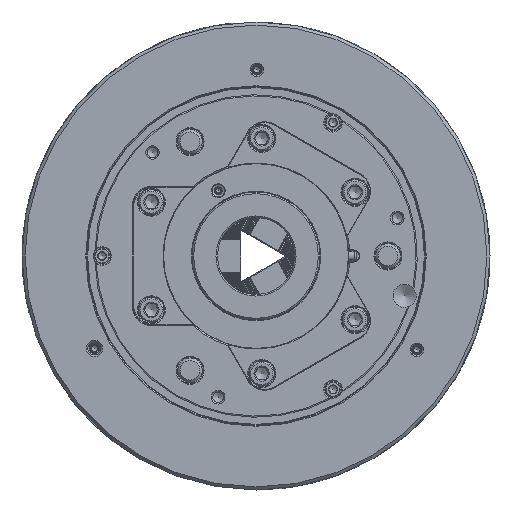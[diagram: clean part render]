
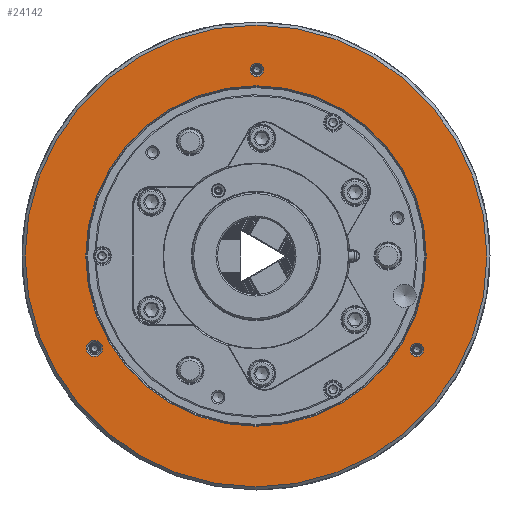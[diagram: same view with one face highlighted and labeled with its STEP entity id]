
A CAD part, left-side view. The second image highlights one B-rep face of the part: STEP entity #24142.
In plain terms, the highlighted planar face has unit normal (-1, 0, 0).
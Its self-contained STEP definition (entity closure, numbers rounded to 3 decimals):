
#500 = DIRECTION ( 'NONE',  ( 1., 0., 0. ) ) ;
#8141 = EDGE_LOOP ( 'NONE', ( #21947 ) ) ;
#9472 = VERTEX_POINT ( 'NONE', #22091 ) ;
#10728 = EDGE_LOOP ( 'NONE', ( #10780 ) ) ;
#10780 = ORIENTED_EDGE ( 'NONE', *, *, #44669, .F. ) ;
#10956 = AXIS2_PLACEMENT_3D ( 'NONE', #47900, #17606, #77194 ) ;
#11803 = FACE_BOUND ( 'NONE', #73478, .T. ) ;
#13430 = AXIS2_PLACEMENT_3D ( 'NONE', #48141, #56084, #95352 ) ;
#14765 = CARTESIAN_POINT ( 'NONE',  ( -138., -0.538, 120.933 ) ) ;
#15233 = DIRECTION ( 'NONE',  ( -1., 0., 0. ) ) ;
#17606 = DIRECTION ( 'NONE',  ( -1., 0., 0. ) ) ;
#18250 = FACE_BOUND ( 'NONE', #8141, .T. ) ;
#18339 = EDGE_CURVE ( 'NONE', #22206, #22206, #57001, .T. ) ;
#21447 = EDGE_CURVE ( 'NONE', #25108, #25108, #87266, .T. ) ;
#21947 = ORIENTED_EDGE ( 'NONE', *, *, #71454, .F. ) ;
#22091 = CARTESIAN_POINT ( 'NONE',  ( -138., 0., -150. ) ) ;
#22206 = VERTEX_POINT ( 'NONE', #52518 ) ;
#24142 = ADVANCED_FACE ( 'NONE', ( #18250, #78843, #11803, #65908, #27209 ), #96238, .F. ) ;
#25108 = VERTEX_POINT ( 'NONE', #48950 ) ;
#27158 = AXIS2_PLACEMENT_3D ( 'NONE', #43083, #58449, #28662 ) ;
#27209 = FACE_BOUND ( 'NONE', #93152, .T. ) ;
#28662 = DIRECTION ( 'NONE',  ( 0., 0., -1. ) ) ;
#29263 = CARTESIAN_POINT ( 'NONE',  ( -138., -0.538, 125.233 ) ) ;
#30688 = VERTEX_POINT ( 'NONE', #29263 ) ;
#30710 = ORIENTED_EDGE ( 'NONE', *, *, #18339, .F. ) ;
#38247 = CARTESIAN_POINT ( 'NONE',  ( -138., 0., 0. ) ) ;
#38720 = DIRECTION ( 'NONE',  ( 0., 0., -1. ) ) ;
#43083 = CARTESIAN_POINT ( 'NONE',  ( -138., -150., 0. ) ) ;
#44669 = EDGE_CURVE ( 'NONE', #9472, #9472, #51450, .T. ) ;
#47900 = CARTESIAN_POINT ( 'NONE',  ( -138., -104.462, -60.933 ) ) ;
#48141 = CARTESIAN_POINT ( 'NONE',  ( -138., 0., 0. ) ) ;
#48873 = AXIS2_PLACEMENT_3D ( 'NONE', #14765, #15233, #67389 ) ;
#48950 = CARTESIAN_POINT ( 'NONE',  ( -138., 0., -110.6 ) ) ;
#51450 = CIRCLE ( 'NONE', #13430, 150. ) ;
#52518 = CARTESIAN_POINT ( 'NONE',  ( -138., -104.462, -56.633 ) ) ;
#53064 = CARTESIAN_POINT ( 'NONE',  ( -138., 105., -65.3 ) ) ;
#55136 = ORIENTED_EDGE ( 'NONE', *, *, #70740, .T. ) ;
#56084 = DIRECTION ( 'NONE',  ( 1., 0., 0. ) ) ;
#56798 = CARTESIAN_POINT ( 'NONE',  ( -138., 105., -60. ) ) ;
#57001 = CIRCLE ( 'NONE', #10956, 4.3 ) ;
#57697 = ORIENTED_EDGE ( 'NONE', *, *, #21447, .T. ) ;
#58379 = CIRCLE ( 'NONE', #48873, 4.3 ) ;
#58449 = DIRECTION ( 'NONE',  ( 1., 0., 0. ) ) ;
#65908 = FACE_OUTER_BOUND ( 'NONE', #10728, .T. ) ;
#67389 = DIRECTION ( 'NONE',  ( 0., 0., 1. ) ) ;
#68438 = VERTEX_POINT ( 'NONE', #53064 ) ;
#70740 = EDGE_CURVE ( 'NONE', #68438, #68438, #97947, .T. ) ;
#71454 = EDGE_CURVE ( 'NONE', #30688, #30688, #58379, .T. ) ;
#73478 = EDGE_LOOP ( 'NONE', ( #55136 ) ) ;
#74803 = EDGE_LOOP ( 'NONE', ( #30710 ) ) ;
#77194 = DIRECTION ( 'NONE',  ( 0., 0., 1. ) ) ;
#78843 = FACE_BOUND ( 'NONE', #74803, .T. ) ;
#79689 = DIRECTION ( 'NONE',  ( 0., 0., -1. ) ) ;
#80955 = AXIS2_PLACEMENT_3D ( 'NONE', #38247, #500, #38720 ) ;
#87137 = DIRECTION ( 'NONE',  ( 1., 0., 0. ) ) ;
#87266 = CIRCLE ( 'NONE', #80955, 110.6 ) ;
#90040 = AXIS2_PLACEMENT_3D ( 'NONE', #56798, #87137, #79689 ) ;
#93152 = EDGE_LOOP ( 'NONE', ( #57697 ) ) ;
#95352 = DIRECTION ( 'NONE',  ( 0., 0., -1. ) ) ;
#96238 = PLANE ( 'NONE',  #27158 ) ;
#97947 = CIRCLE ( 'NONE', #90040, 5.3 ) ;
